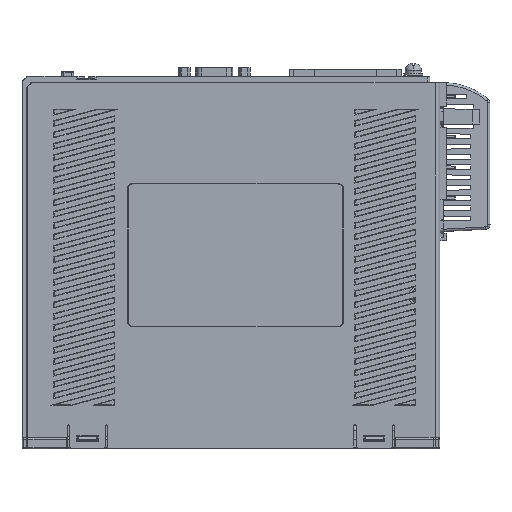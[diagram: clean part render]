
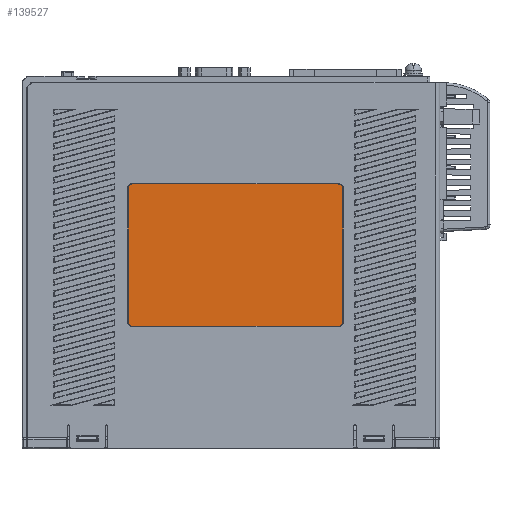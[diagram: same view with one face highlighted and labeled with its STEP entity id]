
A CAD part, left-side view. The second image highlights one B-rep face of the part: STEP entity #139527.
In plain terms, the highlighted planar face has unit normal (-1, 0, 0) as drawn and (0, 0, -1) by its records, which use the part's own axes.
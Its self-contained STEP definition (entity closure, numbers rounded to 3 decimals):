
#99416=CARTESIAN_POINT('',(-43.1,-53.3,
-19.5));
#99425=CARTESIAN_POINT('',(-43.1,-108.9,
-19.5));
#99427=DIRECTION('',(0.,1.,0.));
#99428=VECTOR('',#99427,55.6);
#99429=CARTESIAN_POINT('',(-43.1,-108.9,
-19.5));
#99430=LINE('',#99429,#99428);
#99434=CARTESIAN_POINT('',(-41.1,-110.9,
-19.5));
#99443=CARTESIAN_POINT('',(44.9,-110.9,
-19.5));
#99445=DIRECTION('',(-1.,0.,0.));
#99446=VECTOR('',#99445,86.);
#99447=CARTESIAN_POINT('',(44.9,-110.9,
-19.5));
#99448=LINE('',#99447,#99446);
#99452=CARTESIAN_POINT('',(46.9,-108.9,
-19.5));
#99461=CARTESIAN_POINT('',(46.9,-53.3,
-19.5));
#99463=DIRECTION('',(0.,-1.,0.));
#99464=VECTOR('',#99463,55.6);
#99465=CARTESIAN_POINT('',(46.9,-53.3,
-19.5));
#99466=LINE('',#99465,#99464);
#99470=CARTESIAN_POINT('',(44.9,-51.3,
-19.5));
#99481=DIRECTION('',(1.,0.,0.));
#99482=VECTOR('',#99481,86.);
#99483=CARTESIAN_POINT('',(-41.1,-51.3,
-19.5));
#99484=LINE('',#99483,#99482);
#99485=CARTESIAN_POINT('',(-41.1,-53.3,
-19.5));
#99486=DIRECTION('',(0.,0.,1.));
#99487=DIRECTION('',(0.,1.,0.));
#99488=AXIS2_PLACEMENT_3D('',#99485,#99486,#99487);
#99490=CARTESIAN_POINT('',(-41.1,-108.9,
-19.5));
#99491=DIRECTION('',(0.,0.,1.));
#99492=DIRECTION('',(-1.,0.,0.));
#99493=AXIS2_PLACEMENT_3D('',#99490,#99491,#99492);
#99495=CARTESIAN_POINT('',(44.9,-108.9,
-19.5));
#99496=DIRECTION('',(0.,0.,1.));
#99497=DIRECTION('',(0.,-1.,0.));
#99498=AXIS2_PLACEMENT_3D('',#99495,#99496,#99497);
#99500=CARTESIAN_POINT('',(44.9,-53.3,
-19.5));
#99501=DIRECTION('',(0.,0.,1.));
#99502=DIRECTION('',(1.,0.,0.));
#99503=AXIS2_PLACEMENT_3D('',#99500,#99501,#99502);
#113796=VERTEX_POINT('',#99416);
#113797=CARTESIAN_POINT('',(-41.1,-51.3,
-19.5));
#113798=VERTEX_POINT('',#113797);
#113799=VERTEX_POINT('',#99425);
#113800=VERTEX_POINT('',#99434);
#113801=VERTEX_POINT('',#99443);
#113802=VERTEX_POINT('',#99452);
#113803=VERTEX_POINT('',#99461);
#113804=VERTEX_POINT('',#99470);
#139512=CARTESIAN_POINT('',(0.,-156.,-19.5));
#139513=DIRECTION('',(0.,0.,-1.));
#139514=DIRECTION('',(-1.,0.,0.));
#139515=AXIS2_PLACEMENT_3D('',#139512,#139513,#139514);
#139516=PLANE('',#139515);
#139517=ORIENTED_EDGE('',*,*,#139370,.T.);
#139518=ORIENTED_EDGE('',*,*,#139390,.F.);
#139519=ORIENTED_EDGE('',*,*,#139410,.T.);
#139520=ORIENTED_EDGE('',*,*,#139429,.F.);
#139521=ORIENTED_EDGE('',*,*,#139449,.T.);
#139522=ORIENTED_EDGE('',*,*,#139468,.F.);
#139523=ORIENTED_EDGE('',*,*,#139488,.T.);
#139524=ORIENTED_EDGE('',*,*,#139506,.F.);
#139525=EDGE_LOOP('',(#139517,#139518,#139519,#139520,#139521,#139522,#139523,
#139524));
#139526=FACE_OUTER_BOUND('',#139525,.F.);
#99489=CIRCLE('',#99488,2.);
#99494=CIRCLE('',#99493,2.);
#99499=CIRCLE('',#99498,2.);
#99504=CIRCLE('',#99503,2.);
#139370=EDGE_CURVE('',#113798,#113796,#99489,.T.);
#139390=EDGE_CURVE('',#113799,#113796,#99430,.T.);
#139410=EDGE_CURVE('',#113799,#113800,#99494,.T.);
#139429=EDGE_CURVE('',#113801,#113800,#99448,.T.);
#139449=EDGE_CURVE('',#113801,#113802,#99499,.T.);
#139468=EDGE_CURVE('',#113803,#113802,#99466,.T.);
#139488=EDGE_CURVE('',#113803,#113804,#99504,.T.);
#139506=EDGE_CURVE('',#113798,#113804,#99484,.T.);
#139527=ADVANCED_FACE('',(#139526),#139516,.T.);
